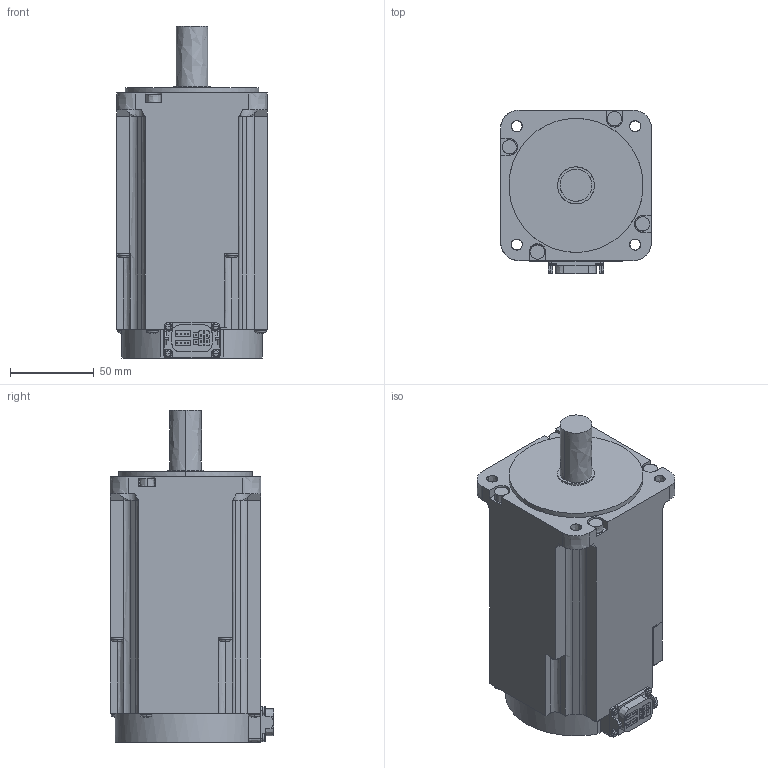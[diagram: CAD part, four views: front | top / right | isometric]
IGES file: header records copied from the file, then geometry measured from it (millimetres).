
Start section:  PTC IGES file: hk-kt153wb_-_asm.igs
Global section: file name: hk-kt153wb_-_asm.igs; native system: Creo Parametric by PTC Inc.; preprocessor: 2016380; author: XE90682; organization: Unknown; date: 20190116.145301; units: millimetre
Bounding box: 90 x 97.65 x 198.3 mm (x, y, z)
Volume: 1117387.1 mm3; surface area: 74347.8 mm2
Topology: 1 solids, 1 shells, 397 faces, 1028 edges, 652 vertices
Faces by surface type: bspline 397
